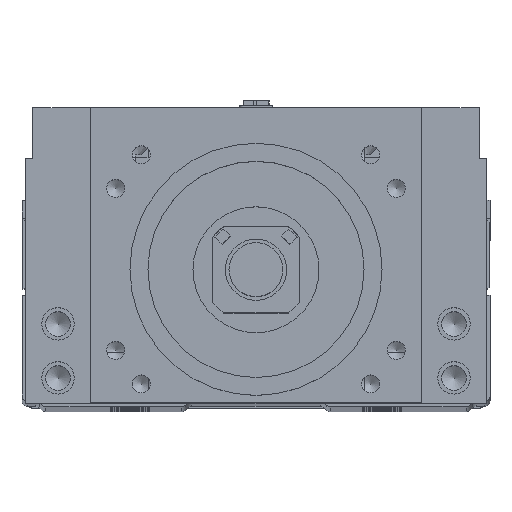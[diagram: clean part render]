
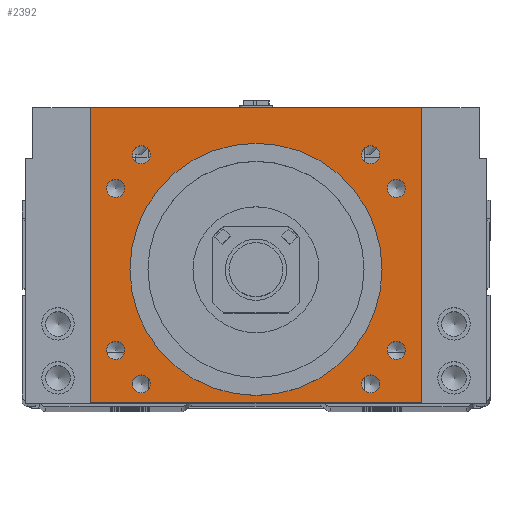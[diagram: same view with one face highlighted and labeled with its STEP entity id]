
A CAD part, top view. The second image highlights one B-rep face of the part: STEP entity #2392.
In plain terms, the highlighted planar face has unit normal (0, 0, 1).
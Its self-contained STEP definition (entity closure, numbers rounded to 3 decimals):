
#1648=FACE_BOUND('',#4402,.T.);
#1649=FACE_BOUND('',#4403,.T.);
#1650=FACE_BOUND('',#4404,.T.);
#1651=FACE_BOUND('',#4405,.T.);
#1652=FACE_BOUND('',#4406,.T.);
#1653=FACE_BOUND('',#4407,.T.);
#1654=FACE_BOUND('',#4408,.T.);
#1655=FACE_BOUND('',#4409,.T.);
#1656=FACE_BOUND('',#4410,.T.);
#1657=FACE_BOUND('',#4411,.T.);
#2392=ADVANCED_FACE('',(#1648,#1649,#1650,#1651,#1652,#1653,#1654,#1655,
#1656,#1657),#3154,.T.);
#3154=PLANE('',#15886);
#4402=EDGE_LOOP('',(#6947,#6948,#6949,#6950));
#4403=EDGE_LOOP('',(#6951));
#4404=EDGE_LOOP('',(#6952));
#4405=EDGE_LOOP('',(#6953));
#4406=EDGE_LOOP('',(#6954));
#4407=EDGE_LOOP('',(#6955));
#4408=EDGE_LOOP('',(#6956));
#4409=EDGE_LOOP('',(#6957));
#4410=EDGE_LOOP('',(#6958));
#4411=EDGE_LOOP('',(#6959));
#5426=CIRCLE('',#15876,35.015);
#5427=CIRCLE('',#15878,2.5);
#5428=CIRCLE('',#15879,2.5);
#5429=CIRCLE('',#15880,2.5);
#5430=CIRCLE('',#15881,2.5);
#5431=CIRCLE('',#15882,2.5);
#5432=CIRCLE('',#15883,2.5);
#5433=CIRCLE('',#15884,2.5);
#5434=CIRCLE('',#15885,2.5);
#6947=ORIENTED_EDGE('',*,*,#11598,.T.);
#6948=ORIENTED_EDGE('',*,*,#11586,.T.);
#6949=ORIENTED_EDGE('',*,*,#11593,.T.);
#6950=ORIENTED_EDGE('',*,*,#11603,.T.);
#6951=ORIENTED_EDGE('',*,*,#11611,.F.);
#6952=ORIENTED_EDGE('',*,*,#11612,.T.);
#6953=ORIENTED_EDGE('',*,*,#11613,.T.);
#6954=ORIENTED_EDGE('',*,*,#11614,.F.);
#6955=ORIENTED_EDGE('',*,*,#11610,.F.);
#6956=ORIENTED_EDGE('',*,*,#11615,.T.);
#6957=ORIENTED_EDGE('',*,*,#11616,.T.);
#6958=ORIENTED_EDGE('',*,*,#11617,.T.);
#6959=ORIENTED_EDGE('',*,*,#11618,.T.);
#10031=VERTEX_POINT('',#22210);
#10032=VERTEX_POINT('',#22212);
#10036=VERTEX_POINT('',#22223);
#10038=VERTEX_POINT('',#22234);
#10044=VERTEX_POINT('',#22258);
#10045=VERTEX_POINT('',#22261);
#10046=VERTEX_POINT('',#22263);
#10047=VERTEX_POINT('',#22265);
#10048=VERTEX_POINT('',#22267);
#10049=VERTEX_POINT('',#22269);
#10050=VERTEX_POINT('',#22271);
#10051=VERTEX_POINT('',#22273);
#10052=VERTEX_POINT('',#22275);
#11586=EDGE_CURVE('',#10032,#10031,#13286,.T.);
#11593=EDGE_CURVE('',#10031,#10036,#13291,.T.);
#11598=EDGE_CURVE('',#10038,#10032,#13296,.T.);
#11603=EDGE_CURVE('',#10036,#10038,#13301,.T.);
#11610=EDGE_CURVE('',#10044,#10044,#5426,.T.);
#11611=EDGE_CURVE('',#10045,#10045,#5427,.T.);
#11612=EDGE_CURVE('',#10046,#10046,#5428,.T.);
#11613=EDGE_CURVE('',#10047,#10047,#5429,.T.);
#11614=EDGE_CURVE('',#10048,#10048,#5430,.T.);
#11615=EDGE_CURVE('',#10049,#10049,#5431,.T.);
#11616=EDGE_CURVE('',#10050,#10050,#5432,.T.);
#11617=EDGE_CURVE('',#10051,#10051,#5433,.T.);
#11618=EDGE_CURVE('',#10052,#10052,#5434,.T.);
#13286=LINE('',#22211,#14548);
#13291=LINE('',#22225,#14553);
#13296=LINE('',#22233,#14558);
#13301=LINE('',#22242,#14563);
#14548=VECTOR('',#18012,1.);
#14553=VECTOR('',#18023,1.);
#14558=VECTOR('',#18034,1.);
#14563=VECTOR('',#18041,1.);
#15876=AXIS2_PLACEMENT_3D('',#22257,#18060,#18061);
#15878=AXIS2_PLACEMENT_3D('',#22260,#18064,#18065);
#15879=AXIS2_PLACEMENT_3D('',#22262,#18066,#18067);
#15880=AXIS2_PLACEMENT_3D('',#22264,#18068,#18069);
#15881=AXIS2_PLACEMENT_3D('',#22266,#18070,#18071);
#15882=AXIS2_PLACEMENT_3D('',#22268,#18072,#18073);
#15883=AXIS2_PLACEMENT_3D('',#22270,#18074,#18075);
#15884=AXIS2_PLACEMENT_3D('',#22272,#18076,#18077);
#15885=AXIS2_PLACEMENT_3D('',#22274,#18078,#18079);
#15886=AXIS2_PLACEMENT_3D('',#22276,#18080,#18081);
#18012=DIRECTION('',(-1.,0.,0.));
#18023=DIRECTION('',(0.,-1.,0.));
#18034=DIRECTION('',(0.,1.,0.));
#18041=DIRECTION('',(1.,0.,0.));
#18060=DIRECTION('',(0.,0.,1.));
#18061=DIRECTION('',(1.,0.,0.));
#18064=DIRECTION('',(0.,0.,1.));
#18065=DIRECTION('',(-1.,0.,0.));
#18066=DIRECTION('',(0.,0.,-1.));
#18067=DIRECTION('',(1.,0.,0.));
#18068=DIRECTION('',(0.,0.,-1.));
#18069=DIRECTION('',(1.,0.,0.));
#18070=DIRECTION('',(0.,0.,1.));
#18071=DIRECTION('',(-1.,0.,0.));
#18072=DIRECTION('',(0.,0.,-1.));
#18073=DIRECTION('',(1.,0.,0.));
#18074=DIRECTION('',(0.,0.,-1.));
#18075=DIRECTION('',(1.,0.,0.));
#18076=DIRECTION('',(0.,0.,-1.));
#18077=DIRECTION('',(1.,0.,0.));
#18078=DIRECTION('',(0.,0.,-1.));
#18079=DIRECTION('',(1.,0.,0.));
#18080=DIRECTION('',(0.,0.,1.));
#18081=DIRECTION('',(1.,0.,0.));
#22210=CARTESIAN_POINT('',(-46.,83.,50.));
#22211=CARTESIAN_POINT('',(0.,83.,50.));
#22212=CARTESIAN_POINT('',(46.,83.,50.));
#22223=CARTESIAN_POINT('',(-46.,1.,50.));
#22225=CARTESIAN_POINT('',(-46.,38.,50.));
#22233=CARTESIAN_POINT('',(46.,38.,50.));
#22234=CARTESIAN_POINT('',(46.,1.,50.));
#22242=CARTESIAN_POINT('',(0.,1.,50.));
#22257=CARTESIAN_POINT('',(0.,38.,50.));
#22258=CARTESIAN_POINT('',(35.015,38.,50.));
#22260=CARTESIAN_POINT('',(-38.971,15.5,50.));
#22261=CARTESIAN_POINT('',(-41.471,15.5,50.));
#22262=CARTESIAN_POINT('',(38.971,60.5,50.));
#22263=CARTESIAN_POINT('',(41.471,60.5,50.));
#22264=CARTESIAN_POINT('',(38.971,15.5,50.));
#22265=CARTESIAN_POINT('',(41.471,15.5,50.));
#22266=CARTESIAN_POINT('',(-38.971,60.5,50.));
#22267=CARTESIAN_POINT('',(-41.471,60.5,50.));
#22268=CARTESIAN_POINT('',(-31.82,69.82,50.));
#22269=CARTESIAN_POINT('',(-29.32,69.82,50.));
#22270=CARTESIAN_POINT('',(-31.82,6.18,50.));
#22271=CARTESIAN_POINT('',(-29.32,6.18,50.));
#22272=CARTESIAN_POINT('',(31.82,6.18,50.));
#22273=CARTESIAN_POINT('',(34.32,6.18,50.));
#22274=CARTESIAN_POINT('',(31.82,69.82,50.));
#22275=CARTESIAN_POINT('',(34.32,69.82,50.));
#22276=CARTESIAN_POINT('',(0.,38.,50.));
